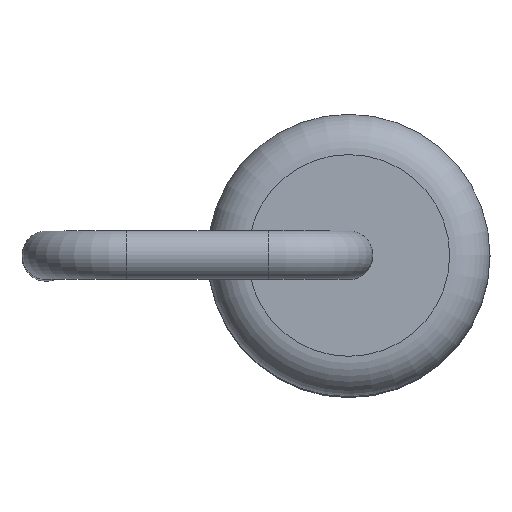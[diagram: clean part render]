
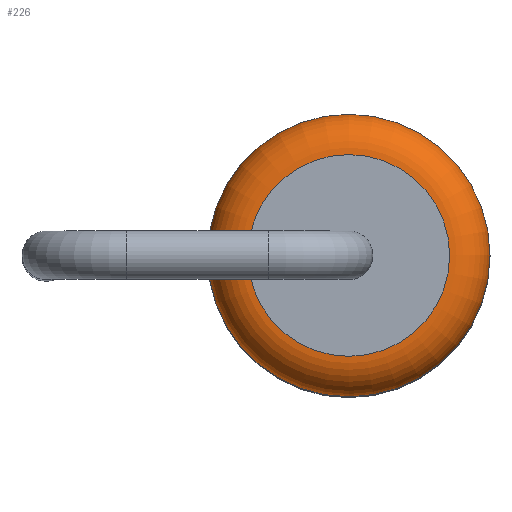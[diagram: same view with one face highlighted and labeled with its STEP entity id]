
A CAD part, top view. The second image highlights one B-rep face of the part: STEP entity #226.
In plain terms, the highlighted toroidal (fillet/blend) face has major radius 1.25 mm and minor radius 0.5 mm.
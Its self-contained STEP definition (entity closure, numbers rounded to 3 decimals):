
#226=ADVANCED_FACE('',(#413,#415),#417,.T.);
#413=FACE_OUTER_BOUND('',#414,.T.);
#414=EDGE_LOOP('',(#508));
#415=FACE_OUTER_BOUND('',#416,.T.);
#416=EDGE_LOOP('',(#509));
#417=TOROIDAL_SURFACE('',#418,1.25,0.5);
#418=AXIS2_PLACEMENT_3D('',#419,#420,#421);
#419=CARTESIAN_POINT('',(0.,0.,3.5));
#420=DIRECTION('',(0.,0.,-1.));
#421=DIRECTION('',(-1.,0.,0.));
#508=ORIENTED_EDGE('',*,*,#536,.T.);
#509=ORIENTED_EDGE('',*,*,#535,.F.);
#535=EDGE_CURVE('',#567,#567,#568,.T.);
#536=EDGE_CURVE('',#569,#569,#570,.T.);
#567=VERTEX_POINT('',#643);
#568=CIRCLE('',#644,1.75);
#569=VERTEX_POINT('',#648);
#570=CIRCLE('',#649,1.25);
#643=CARTESIAN_POINT('',(-1.75,0.,3.5));
#644=AXIS2_PLACEMENT_3D('',#645,#646,#647);
#645=CARTESIAN_POINT('',(0.,0.,3.5));
#646=DIRECTION('',(0.,0.,-1.));
#647=DIRECTION('',(-1.,0.,0.));
#648=CARTESIAN_POINT('',(-1.25,0.,4.));
#649=AXIS2_PLACEMENT_3D('',#650,#651,#652);
#650=CARTESIAN_POINT('',(0.,0.,4.));
#651=DIRECTION('',(0.,0.,-1.));
#652=DIRECTION('',(-1.,0.,0.));
